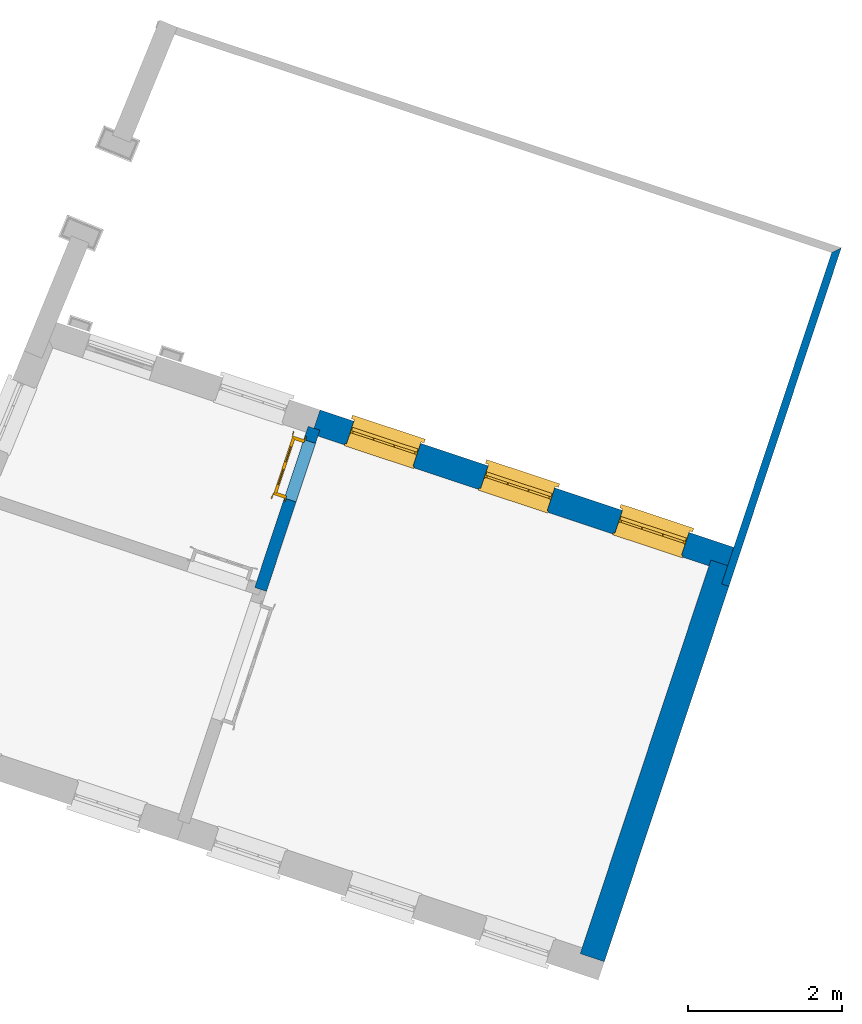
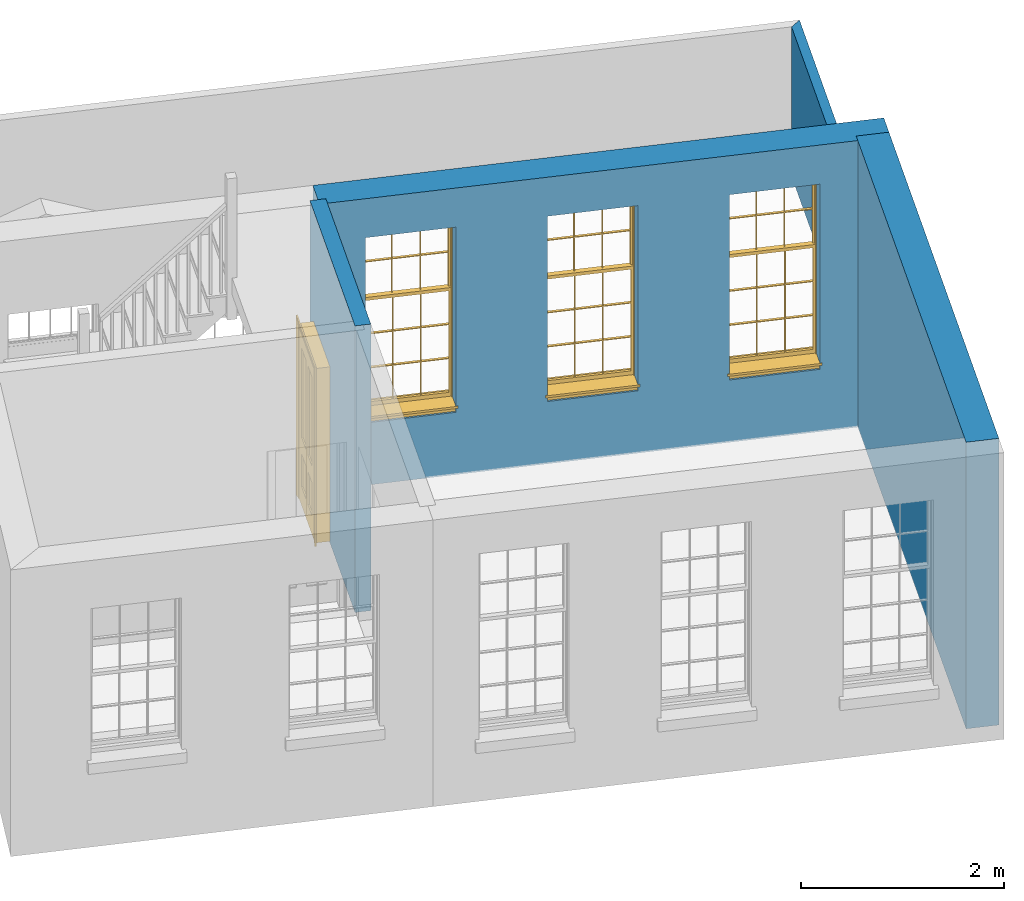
# One storey, part 5 of 6: 4 walls, 3 windows, 1 door, 4 openings.
"""IFC4 building model written with IfcOpenShell, lengths in metres."""

from ifc_helpers import new_model, si_unit, frame, origin, origin_with_axes, place, context, subcontext, project, spatial, polyline, outline, extrude, faceted_brep, source, transform, mapped, material, layer, layer_set, layer_usage, type_object, type_shapes, element, fill, save


model = new_model("IFC4")

# Units and contexts
model_context = context("Model", 3, world=origin_with_axes())
body_context = subcontext(model_context, "Body", "Model", "MODEL_VIEW")
ifc_project = project(units=[si_unit("PLANEANGLEUNIT", "RADIAN"), si_unit("MASSUNIT", "GRAM", prefix="KILO"), si_unit("FORCEUNIT", "NEWTON", prefix="KILO"), si_unit("LENGTHUNIT", "METRE"), si_unit("AREAUNIT", "SQUARE_METRE"), si_unit("VOLUMEUNIT", "CUBIC_METRE")], contexts=[model_context, model_context])

# Sites, building, storey
site_1_placement = place(None, origin_with_axes())
site_1 = spatial("IfcSite", under=ifc_project, at=site_1_placement, Name="Tamar")
site_2_placement = place(site_1_placement, origin_with_axes())
site_2 = spatial("IfcSite", under=site_1, at=site_2_placement, Name="Site plot-16", CompositionType="ELEMENT")
building_placement = place(None, origin_with_axes())
building = spatial("IfcBuilding", under=site_2, at=building_placement, Name="Building plot-16", CompositionType="ELEMENT")
storey_placement = place(None, frame((0.0, 0.0, 26.0), z_axis=(0.0, 0.0, 1.0), x_axis=(1.0, 0.0, 0.0)))
storey = spatial("IfcBuildingStorey", under=building, at=storey_placement, Name="plot-16 0", CompositionType="ELEMENT", Elevation=26.0)

# Wall, openings, windows
ifc_material_1 = material(Name="Masonry")
ifc_layer_1 = layer(ifc_material_1, 0.33, ventilated=False)
ifc_layer_set_1 = layer_set([ifc_layer_1], Name="exterior_0.08_0.25")
ifc_layer_usage_1 = layer_usage(ifc_layer_set_1, "AXIS2", "POSITIVE", -0.25)
wall_type_1 = type_object("IfcWallType", Name="exterior_0.08_0.25", PredefinedType="SOLIDWALL", material=ifc_layer_set_1)
wall_1_placement = place(storey_placement, frame((263.230074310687, 296.823615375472, 0.0), z_axis=(0.0, 0.0, 1.0), x_axis=(-0.949078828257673, 0.315038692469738, 0.0)))
wall_1 = element("IfcWall", 1, at=wall_1_placement, inside=storey, type_object=wall_type_1, material=ifc_layer_usage_1, Name="exterior", context=body_context, shape_type="SweptSolid", body=[
    extrude(outline(polyline([(-0.249999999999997, 0.0799999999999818), (-0.249999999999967, -0.249999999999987), (5.49899441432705, -0.249999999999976), (5.49899441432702, 0.0799999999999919), (-0.249999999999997, 0.0799999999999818)])), origin_with_axes(), (0.0, 0.0, 1.0), 3.45),
])
opening_1_placement = place(wall_1_placement, frame((0.461499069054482, 0.0, 0.75)))
opening_1 = element("IfcOpeningElement", 2, at=opening_1_placement, cuts=wall_1, Name="My Opening", ObjectType="Opening", context=body_context, shape_type="SweptSolid", body=[
    extrude(outline(polyline([(0.0, -0.270000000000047), (0.909999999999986, -0.270000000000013), (0.910000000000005, 1.10000000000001), (1.9151347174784e-14, 1.09999999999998), (0.0, -0.270000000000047)])), origin_with_axes(), (0.0, 0.0, 1.0), 2.23),
])
opening_2_placement = place(wall_1_placement, frame((2.2944972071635, 0.0, 0.75)))
opening_2 = element("IfcOpeningElement", 3, at=opening_2_placement, cuts=wall_1, Name="My Opening", ObjectType="Opening", context=body_context, shape_type="SweptSolid", body=[
    extrude(outline(polyline([(0.0, -0.270000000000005), (0.910000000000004, -0.270000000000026), (0.910000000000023, 1.1), (1.95399252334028e-14, 1.10000000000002), (0.0, -0.270000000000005)])), origin_with_axes(), (0.0, 0.0, 1.0), 2.23),
])
opening_3_placement = place(wall_1_placement, frame((4.12749534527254, 0.0, 0.75)))
opening_3 = element("IfcOpeningElement", 4, at=opening_3_placement, cuts=wall_1, Name="My Opening", ObjectType="Opening", context=body_context, shape_type="SweptSolid", body=[
    extrude(outline(polyline([(0.0, -0.270000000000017), (0.909999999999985, -0.269999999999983), (0.910000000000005, 1.10000000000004), (1.86517468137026e-14, 1.10000000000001), (0.0, -0.270000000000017)])), origin_with_axes(), (0.0, 0.0, 1.0), 2.23),
])
window_type = type_object("IfcWindowType", Name="sash_big_taller", PartitioningType="DOUBLE_PANEL_HORIZONTAL", PredefinedType="NOTDEFINED")
shared_shape_1 = source(origin(), body_context, "Body", "Brep", [
    faceted_brep([(0.033125, 0.145, 1.385209), (0.01, 0.145, 1.385209), (0.033125, 0.145, 1.786042), (0.876875, 0.145, 1.385209), (0.876875, 0.145, 1.786042), (0.9, 0.145, 1.385209), (0.876875, 0.145, 1.796042), (0.876875, 0.145, 2.196875), (0.9, 0.145, 2.22), (0.033125, 0.145, 2.196875), (0.033125, 0.145, 1.796042), (0.01, 0.145, 2.22), (0.876875, 0.115, 1.786042), (0.876875, 0.115, 1.385209), (0.9, 0.115, 1.347084), (0.033125, 0.115, 2.196875), (0.01, 0.115, 2.22), (0.033125, 0.115, 1.796042), (0.01, 0.115, 1.347084), (0.033125, 0.115, 1.385209), (0.033125, 0.115, 1.786042), (0.876875, 0.115, 2.196875), (0.876875, 0.115, 1.796042), (0.9, 0.115, 2.22), (0.033125, 0.145, 1.347084), (0.01, 0.145, 1.347084), (0.033125, 0.145, 0.94625), (0.876875, 0.145, 1.347084), (0.876875, 0.145, 0.94625), (0.9, 0.145, 1.347084), (0.876875, 0.145, 0.52625), (0.876875, 0.145, 0.125417), (0.9, 0.145, 0.077167), (0.033125, 0.145, 0.125417), (0.033125, 0.145, 0.52625), (0.01, 0.145, 0.077167), (-0.0425, 0.0, 0.01), (-0.0425, -0.05, 0.001667), (0.0, 0.0, 0.01), (0.9525, 0.0, 0.01), (0.91, 0.0, 0.01), (0.9525, -0.05, 0.001667), (-0.02, 0.33, 0.077167), (0.0, 0.33, 0.077167), (-0.02, 0.36, 0.077167), (0.0, 0.19, 0.077167), (0.01, 0.19, 0.077167), (0.91, 0.19, 0.077167), (0.91, 0.33, 0.077167), (0.9, 0.19, 0.077167), (0.93, 0.33, 0.077167), (0.93, 0.36, 0.077167), (0.01, 0.175, 1.385209), (0.9, 0.175, 1.385209), (0.876875, 0.175, 0.125417), (0.876875, 0.175, 0.52625), (0.9, 0.175, 0.077167), (0.876875, 0.175, 0.94625), (0.876875, 0.175, 1.347084), (0.033125, 0.175, 0.125417), (0.01, 0.175, 0.077167), (0.033125, 0.175, 0.52625), (0.033125, 0.175, 1.347084), (0.033125, 0.175, 0.94625), (-0.02, 0.33, 0.052167), (-0.02, 0.36, 0.052167), (0.93, 0.36, 0.052167), (0.93, 0.33, 0.052167), (0.91, 0.33, 0.052167), (0.0, 0.33, 0.052167), (0.91, 0.1, 0.026667), (0.0, 0.1, 0.026667), (-0.0425, -0.05, -0.123333), (0.9525, -0.05, -0.123333), (-0.0425, 0.0, -0.123333), (0.9525, 0.0, -0.123333), (0.01, 0.19, 2.22), (0.9, 0.19, 2.22), (0.0, 0.19, 2.23), (0.91, 0.19, 2.23), (0.01, 0.1, 0.077167), (0.9, 0.1, 0.077167), (0.592292, 0.145, 0.125417), (0.592292, 0.175, 0.125417), (0.317708, 0.175, 0.125417), (0.317708, 0.145, 0.125417), (0.592292, 0.145, 0.53625), (0.317708, 0.145, 0.53625), (0.317708, 0.145, 0.52625), (0.592292, 0.145, 0.52625), (0.592292, 0.175, 0.53625), (0.317708, 0.175, 0.53625), (0.592292, 0.115, 1.796042), (0.592292, 0.145, 1.796042), (0.317708, 0.145, 1.796042), (0.317708, 0.115, 1.796042), (0.317708, 0.115, 1.786042), (0.592292, 0.115, 1.786042), (0.317708, 0.145, 1.786042), (0.592292, 0.145, 1.786042), (0.602292, 0.115, 1.786042), (0.592292, 0.115, 1.385209), (0.602292, 0.115, 1.385209), (0.602292, 0.145, 1.385209), (0.592292, 0.145, 1.385209), (0.602292, 0.145, 1.786042), (0.876875, 0.145, 0.53625), (0.876875, 0.175, 0.53625), (0.602292, 0.175, 0.53625), (0.602292, 0.145, 0.53625), (0.317708, 0.175, 0.52625), (0.307708, 0.175, 0.125417), (0.307708, 0.175, 0.52625), (0.602292, 0.175, 0.52625), (0.602292, 0.175, 0.125417), (0.592292, 0.175, 0.52625), (0.307708, 0.175, 0.53625), (0.033125, 0.175, 0.53625), (0.317708, 0.175, 1.347084), (0.317708, 0.175, 0.94625), (0.307708, 0.175, 0.94625), (0.307708, 0.175, 1.347084), (0.602292, 0.175, 1.347084), (0.602292, 0.175, 0.94625), (0.592292, 0.175, 0.94625), (0.592292, 0.175, 1.347084), (0.307708, 0.145, 0.52625), (0.307708, 0.145, 0.125417), (0.307708, 0.145, 0.53625), (0.033125, 0.145, 0.53625), (0.307708, 0.145, 1.347084), (0.307708, 0.145, 0.94625), (0.592292, 0.145, 1.347084), (0.592292, 0.145, 0.94625), (0.317708, 0.145, 0.94625), (0.317708, 0.145, 1.347084), (0.602292, 0.145, 0.94625), (0.602292, 0.145, 1.347084), (0.602292, 0.145, 0.52625), (0.602292, 0.145, 0.125417), (0.307708, 0.115, 1.796042), (0.307708, 0.115, 1.786042), (0.307708, 0.115, 1.385209), (0.317708, 0.115, 1.385209), (0.317708, 0.115, 2.196875), (0.307708, 0.115, 2.196875), (0.602292, 0.115, 2.196875), (0.592292, 0.115, 2.196875), (0.602292, 0.115, 1.796042), (0.602292, 0.145, 1.796042), (0.307708, 0.145, 1.796042), (0.307708, 0.145, 2.196875), (0.317708, 0.145, 2.196875), (0.592292, 0.145, 2.196875), (0.602292, 0.145, 2.196875), (0.307708, 0.145, 1.786042), (0.317708, 0.145, 1.385209), (0.307708, 0.145, 1.385209), (0.876875, 0.175, 0.93625), (0.033125, 0.175, 0.93625), (0.033125, 0.145, 0.93625), (0.876875, 0.145, 0.93625), (0.91, 0.1, 2.23), (0.9, 0.1, 2.22), (0.01, 0.1, 2.22), (0.0, 0.1, 2.23), (0.91, 0.0, 0.0), (0.0, 0.0, 0.0), (0.91, 0.33, 0.0), (0.0, 0.33, 0.0), (0.317708, 0.145, 0.93625), (0.592292, 0.145, 0.93625), (0.317708, 0.175, 0.93625), (0.307708, 0.175, 0.93625), (0.602292, 0.175, 0.93625), (0.592292, 0.175, 0.93625), (0.307708, 0.145, 0.93625), (0.602292, 0.145, 0.93625)], [[[0, 1, 2]], [[3, 4, 5]], [[6, 7, 8]], [[9, 10, 11]], [[12, 13, 14]], [[15, 16, 17]], [[18, 19, 20]], [[21, 22, 23]], [[24, 25, 26]], [[27, 28, 29]], [[30, 31, 32]], [[33, 34, 35]], [[14, 27, 29]], [[25, 24, 18]], [[36, 37, 38]], [[39, 40, 41]], [[42, 43, 44]], [[45, 46, 43]], [[47, 48, 49]], [[50, 51, 48]], [[1, 0, 52]], [[5, 53, 3]], [[54, 55, 56]], [[57, 58, 53]], [[59, 60, 61]], [[62, 63, 52]], [[48, 43, 46, 49]], [[51, 44, 43, 48]], [[64, 42, 44, 65]], [[65, 44, 51, 66]], [[66, 51, 50, 67]], [[65, 66, 68, 69]], [[60, 56, 49, 46]], [[70, 71, 38, 40]], [[37, 41, 40, 38]], [[37, 72, 73, 41]], [[74, 75, 73, 72]], [[8, 11, 76, 77]], [[76, 78, 79, 77]], [[32, 35, 80, 81]], [[81, 80, 71, 70]], [[82, 83, 84, 85]], [[86, 87, 88, 89]], [[86, 90, 91, 87]], [[92, 93, 94, 95]], [[92, 95, 96, 97]], [[96, 98, 99, 97]], [[100, 97, 101, 102]], [[103, 104, 99, 105]], [[97, 99, 104, 101]], [[102, 103, 105, 100]], [[106, 107, 108, 109]], [[110, 84, 111, 112]], [[113, 114, 83, 115]], [[116, 112, 61, 117]], [[90, 115, 110, 91]], [[118, 119, 120, 121]], [[122, 123, 124, 125]], [[113, 108, 107, 55]], [[126, 112, 111, 127]], [[34, 61, 112, 126]], [[89, 115, 83, 82]], [[88, 110, 115, 89]], [[85, 84, 110, 88]], [[128, 116, 117, 129]], [[130, 121, 120, 131]], [[132, 125, 124, 133]], [[134, 119, 118, 135]], [[136, 123, 122, 137]], [[138, 113, 55, 30]], [[139, 114, 113, 138]], [[138, 30, 106, 109]], [[88, 126, 127, 85]], [[138, 89, 82, 139]], [[137, 132, 133, 136]], [[128, 129, 34, 126]], [[135, 130, 131, 134]], [[140, 17, 20, 141]], [[96, 141, 142, 143]], [[144, 145, 140, 95]], [[146, 147, 92, 148]], [[100, 12, 22, 148]], [[149, 6, 4, 105]], [[94, 150, 151, 152]], [[149, 93, 153, 154]], [[99, 98, 94, 93]], [[155, 2, 10, 150]], [[156, 157, 155, 98]], [[141, 155, 157, 142]], [[20, 2, 155, 141]], [[143, 156, 98, 96]], [[140, 150, 10, 17]], [[145, 151, 150, 140]], [[147, 153, 93, 92]], [[95, 94, 152, 144]], [[22, 6, 149, 148]], [[148, 149, 154, 146]], [[100, 105, 4, 12]], [[109, 86, 89, 138]], [[108, 113, 115, 90]], [[91, 110, 112, 116]], [[87, 128, 126, 88]], [[97, 100, 148, 92]], [[141, 96, 95, 140]], [[98, 155, 150, 94]], [[105, 99, 93, 149]], [[143, 101, 104, 156]], [[135, 118, 125, 132]], [[144, 152, 153, 147]], [[127, 111, 59, 33]], [[15, 9, 151, 145]], [[146, 154, 7, 21]], [[31, 54, 114, 139]], [[36, 74, 72, 37]], [[39, 41, 73, 75]], [[18, 14, 101, 143]], [[23, 16, 144, 147]], [[83, 56, 60, 84]], [[52, 53, 125, 118]], [[53, 52, 156, 104]], [[11, 8, 153, 152]], [[14, 18, 135, 132]], [[2, 1, 11, 10]], [[8, 5, 4, 6]], [[57, 53, 56, 158]], [[60, 52, 63, 159]], [[26, 25, 35, 160]], [[32, 29, 28, 161]], [[14, 23, 22, 12]], [[18, 20, 17, 16]], [[19, 0, 2, 20]], [[17, 10, 9, 15]], [[12, 4, 3, 13]], [[21, 7, 6, 22]], [[27, 58, 57, 28]], [[30, 55, 54, 31]], [[33, 59, 61, 34]], [[26, 63, 62, 24]], [[5, 8, 77, 53]], [[76, 11, 1, 52]], [[46, 45, 78, 76]], [[49, 77, 79, 47]], [[70, 162, 163, 81]], [[71, 80, 164, 165]], [[19, 142, 157, 0]], [[102, 13, 3, 103]], [[121, 130, 24, 62]], [[29, 32, 81, 14]], [[80, 35, 25, 18]], [[60, 46, 76, 52]], [[77, 49, 56, 53]], [[23, 14, 81, 163]], [[16, 164, 80, 18]], [[35, 85, 127]], [[127, 33, 35]], [[139, 82, 32]], [[32, 31, 139]], [[32, 82, 85, 35]], [[102, 101, 14]], [[14, 13, 102]], [[18, 143, 142]], [[142, 19, 18]], [[146, 21, 23]], [[23, 147, 146]], [[16, 15, 145]], [[145, 144, 16]], [[11, 152, 151]], [[151, 9, 11]], [[154, 153, 8]], [[8, 7, 154]], [[23, 163, 164, 16]], [[162, 165, 164, 163]], [[52, 118, 121]], [[121, 62, 52]], [[125, 53, 122]], [[58, 122, 53]], [[27, 137, 122, 58]], [[56, 83, 114]], [[114, 54, 56]], [[111, 84, 60]], [[60, 59, 111]], [[137, 27, 14]], [[14, 132, 137]], [[130, 135, 18]], [[18, 24, 130]], [[157, 156, 52]], [[52, 0, 157]], [[103, 3, 53]], [[53, 104, 103]], [[79, 78, 165, 162]], [[78, 45, 71, 165]], [[162, 70, 47, 79]], [[166, 75, 74, 167]], [[68, 66, 67]], [[48, 68, 67, 50]], [[69, 64, 65]], [[42, 64, 69, 43]], [[69, 68, 168, 169]], [[70, 68, 48, 47]], [[166, 168, 68, 70]], [[43, 69, 71, 45]], [[69, 169, 167, 71]], [[168, 166, 167, 169]], [[38, 167, 74, 36]], [[71, 167, 38]], [[39, 75, 166, 40]], [[40, 166, 70]], [[133, 134, 170, 171]], [[133, 124, 119, 134]], [[28, 57, 123, 136]], [[172, 91, 116, 173]], [[174, 108, 90, 175]], [[120, 173, 159, 63]], [[124, 175, 172, 119]], [[174, 123, 57, 158]], [[176, 173, 116, 128]], [[160, 159, 173, 176]], [[171, 175, 90, 86]], [[170, 172, 175, 171]], [[87, 91, 172, 170]], [[131, 120, 63, 26]], [[177, 174, 158, 161]], [[109, 108, 174, 177]], [[177, 161, 28, 136]], [[170, 176, 128, 87]], [[177, 171, 86, 109]], [[131, 26, 160, 176]], [[136, 133, 171, 177]], [[123, 174, 175, 124]], [[119, 172, 173, 120]], [[134, 131, 176, 170]], [[129, 117, 159, 160]], [[161, 158, 107, 106]], [[35, 34, 129]], [[35, 129, 160]], [[32, 106, 30]], [[32, 161, 106]], [[56, 55, 107]], [[56, 107, 158]], [[60, 117, 61]], [[60, 159, 117]]]),
])
type_shapes(window_type, [shared_shape_1])
window_1_placement = place(storey_placement, frame((262.877135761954, 297.225256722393, 0.75), z_axis=(0.0, 0.0, 1.0), x_axis=(-0.86366173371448, 0.286685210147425, 0.0)))
window_1 = element("IfcWindow", 5, at=window_1_placement, inside=storey, type_object=window_type, Name="living outside window", OverallHeight=2.23, OverallWidth=0.91, context=body_context, shape_type="MappedRepresentation", body=[
    mapped(shared_shape_1, transform((0.0, 0.0, 0.0), scale=1.0)),
])
fill(opening_1, window_1)
window_2_placement = place(storey_placement, frame((261.137476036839, 297.802722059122, 0.75), z_axis=(0.0, 0.0, 1.0), x_axis=(-0.86366173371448, 0.286685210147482, 0.0)))
window_2 = element("IfcWindow", 6, at=window_2_placement, inside=storey, type_object=window_type, Name="living outside window", OverallHeight=2.23, OverallWidth=0.91, context=body_context, shape_type="MappedRepresentation", body=[
    mapped(shared_shape_1, transform((0.0, 0.0, 0.0), scale=1.0)),
])
fill(opening_2, window_2)
window_3_placement = place(storey_placement, frame((259.397816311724, 298.380187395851, 0.75), z_axis=(0.0, 0.0, 1.0), x_axis=(-0.86366173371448, 0.286685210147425, 0.0)))
window_3 = element("IfcWindow", 7, at=window_3_placement, inside=storey, type_object=window_type, Name="living outside window", OverallHeight=2.23, OverallWidth=0.91, context=body_context, shape_type="MappedRepresentation", body=[
    mapped(shared_shape_1, transform((0.0, 0.0, 0.0), scale=1.0)),
])
fill(opening_3, window_3)

# Wall
ifc_material_2 = material(Name="Masonry")
ifc_layer_2 = layer(ifc_material_2, 0.33, ventilated=False)
ifc_layer_set_2 = layer_set([ifc_layer_2], Name="party_0.08_0.25")
ifc_layer_usage_2 = layer_usage(ifc_layer_set_2, "AXIS2", "POSITIVE", -0.25)
wall_type_2 = type_object("IfcWallType", Name="party_0.08_0.25", PredefinedType="SOLIDWALL", material=ifc_layer_set_2)
wall_2_placement = place(storey_placement, frame((261.536710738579, 291.722224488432, 0.0), z_axis=(0.0, 0.0, 1.0), x_axis=(0.315038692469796, 0.949078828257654, 0.0)))
element("IfcWall", 8, at=wall_2_placement, inside=storey, type_object=wall_type_2, material=ifc_layer_usage_2, Name="party", context=body_context, shape_type="SweptSolid", body=[
    extrude(outline(polyline([(-2.46509343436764e-14, 0.0799999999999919), (-2.85729347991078e-14, -0.249999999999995), (5.37509713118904, -0.249999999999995), (5.37509713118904, 0.0799999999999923), (-2.46509343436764e-14, 0.0799999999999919)])), origin_with_axes(), (0.0, 0.0, 1.0), 3.45),
])

# Wall, opening, door
ifc_material_3 = material(Name="Masonry")
ifc_layer_3 = layer(ifc_material_3, 0.16, ventilated=False)
ifc_layer_set_3 = layer_set([ifc_layer_3], Name="interior_0.08_0.08")
ifc_layer_usage_3 = layer_usage(ifc_layer_set_3, "AXIS2", "POSITIVE", -0.08)
wall_type_3 = type_object("IfcWallType", Name="interior_0.08_0.08", PredefinedType="SOLIDWALL", material=ifc_layer_set_3)
wall_3_placement = place(storey_placement, frame((257.317810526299, 296.467436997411, 0.0), z_axis=(0.0, 0.0, 1.0), x_axis=(0.315038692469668, 0.949078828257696, 0.0)))
wall_3 = element("IfcWall", 9, at=wall_3_placement, inside=storey, type_object=wall_type_3, material=ifc_layer_usage_3, Name="interior", context=body_context, shape_type="SweptSolid", body=[
    extrude(outline(polyline([(-1.3903975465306e-14, 0.0799999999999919), (1.39137726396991e-14, -0.0799999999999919), (2.20063320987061, -0.0799999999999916), (2.20063320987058, 0.0799999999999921), (-1.3903975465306e-14, 0.0799999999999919)])), origin_with_axes(), (0.0, 0.0, 1.0), 3.45),
])
opening_4_placement = place(wall_3_placement, frame((1.22063320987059, 0.0, 0.0199999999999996)))
opening_4 = element("IfcOpeningElement", 10, at=opening_4_placement, cuts=wall_3, Name="My Opening", ObjectType="Opening", context=body_context, shape_type="SweptSolid", body=[
    extrude(outline(polyline([(0.0, -0.100000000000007), (0.799999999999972, -0.10000000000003), (0.799999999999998, 1.10000000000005), (2.53130849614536e-14, 1.10000000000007), (0.0, -0.100000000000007)])), origin_with_axes(), (0.0, 0.0, 1.0), 2.1),
])
door_type = type_object("IfcDoorType", Name="door_inside", OperationType="SINGLE_SWING_LEFT", PredefinedType="NOTDEFINED")
shared_shape_2 = source(origin(), body_context, "Body", "Brep", [
    faceted_brep([(0.773, 0.33, 1.895), (0.66, 0.33, 1.895), (0.66, 0.33, 2.073), (0.773, 0.33, 2.073), (0.773, 0.33, 0.82), (0.66, 0.33, 0.82), (0.45, 0.33, 1.895), (0.45, 0.33, 2.073), (0.773, 0.33, 0.62), (0.66, 0.33, 0.62), (0.66, 0.315, 0.82), (0.66, 0.315, 1.895), (0.45, 0.315, 1.895), (0.35, 0.33, 1.895), (0.35, 0.33, 2.073), (0.773, 0.33, 0.225), (0.66, 0.33, 0.225), (0.45, 0.33, 0.62), (0.45, 0.33, 0.82), (0.45, 0.315, 0.82), (0.35, 0.33, 0.82), (0.14, 0.33, 2.073), (0.14, 0.33, 1.895), (0.773, 0.33, 0.0), (0.66, 0.33, 0.0), (0.66, 0.315, 0.225), (0.66, 0.315, 0.62), (0.45, 0.315, 0.62), (0.35, 0.33, 0.62), (0.35, 0.315, 0.82), (0.35, 0.315, 1.895), (0.14, 0.315, 1.895), (0.027, 0.33, 2.073), (0.027, 0.33, 1.895), (0.773, 0.292, 0.0), (0.66, 0.292, 0.0), (0.45, 0.33, 0.0), (0.45, 0.33, 0.225), (0.45, 0.315, 0.225), (0.35, 0.33, 0.225), (0.14, 0.33, 0.82), (0.14, 0.33, 0.62), (0.14, 0.315, 0.82), (0.027, 0.33, 0.82), (0.773, 0.292, 0.225), (0.66, 0.292, 0.225), (0.45, 0.292, 0.0), (0.35, 0.33, 0.0), (0.35, 0.315, 0.225), (0.35, 0.315, 0.62), (0.14, 0.315, 0.62), (0.027, 0.33, 0.62), (0.773, 0.292, 0.62), (0.66, 0.292, 0.62), (0.45, 0.292, 0.225), (0.35, 0.292, 0.0), (0.14, 0.33, 0.225), (0.14, 0.33, 0.0), (0.14, 0.315, 0.225), (0.027, 0.33, 0.225), (0.773, 0.292, 0.82), (0.66, 0.292, 0.82), (0.66, 0.307, 0.62), (0.66, 0.307, 0.225), (0.45, 0.307, 0.225), (0.35, 0.292, 0.225), (0.14, 0.292, 0.0), (0.027, 0.33, 0.0), (0.773, 0.292, 1.895), (0.66, 0.292, 1.895), (0.45, 0.292, 0.62), (0.45, 0.292, 0.82), (0.45, 0.307, 0.62), (0.35, 0.292, 0.62), (0.14, 0.292, 0.225), (0.027, 0.292, 0.0), (0.773, 0.292, 2.073), (0.66, 0.292, 2.073), (0.66, 0.307, 1.895), (0.66, 0.307, 0.82), (0.45, 0.307, 0.82), (0.35, 0.292, 0.82), (0.35, 0.307, 0.62), (0.35, 0.307, 0.225), (0.14, 0.307, 0.225), (0.027, 0.292, 0.225), (0.45, 0.292, 1.895), (0.45, 0.292, 2.073), (0.45, 0.307, 1.895), (0.35, 0.292, 1.895), (0.14, 0.292, 0.82), (0.14, 0.292, 0.62), (0.14, 0.307, 0.62), (0.027, 0.292, 0.62), (0.35, 0.292, 2.073), (0.35, 0.307, 1.895), (0.35, 0.307, 0.82), (0.14, 0.307, 0.82), (0.027, 0.292, 0.82), (0.14, 0.292, 2.073), (0.14, 0.292, 1.895), (0.14, 0.307, 1.895), (0.027, 0.292, 1.895), (0.027, 0.292, 2.073), (0.02, 0.335, 0.0), (0.005, 0.34, 0.0), (0.005, 0.34, 2.095), (0.02, 0.335, 2.08), (0.02, 0.33, 0.0), (0.0, 0.335, 0.0), (0.0, 0.335, 2.1), (0.795, 0.34, 2.095), (0.78, 0.335, 2.08), (0.02, 0.33, 2.08), (0.0, 0.33, 0.0), (-0.032, 0.345, 0.0), (-0.032, 0.345, 2.132), (0.8, 0.335, 2.1), (0.795, 0.34, 0.0), (0.78, 0.335, 0.0), (0.78, 0.33, 2.08), (0.04, 0.29, 0.0), (0.025, 0.29, 0.0), (0.025, 0.29, 2.075), (0.04, 0.29, 2.06), (-0.04, 0.34, 0.0), (-0.04, 0.34, 2.14), (0.832, 0.345, 2.132), (0.8, 0.335, 0.0), (0.78, 0.33, 0.0), (0.8, 0.33, 0.0), (0.86, 0.33, 0.0), (0.86, 0.33, 2.16), (0.8, 0.33, 2.1), (-0.06, 0.33, 2.16), (0.0, 0.33, 2.1), (-0.06, 0.33, 0.0), (-0.04, 0.345, 0.0), (-0.04, 0.345, 2.14), (0.84, 0.34, 2.14), (0.832, 0.345, 0.0), (0.84, 0.34, 0.0), (0.86, 0.345, 0.0), (0.86, 0.345, 2.16), (-0.06, 0.345, 2.16), (-0.06, 0.345, 0.0), (0.84, 0.345, 0.0), (0.84, 0.345, 2.14), (-0.025, 0.155, 0.0), (-0.025, 0.16, 0.0), (-0.025, 0.16, 2.125), (-0.025, 0.155, 2.125), (-0.017, 0.155, 0.0), (-0.017, 0.155, 2.117), (0.825, 0.16, 2.125), (0.825, 0.155, 2.125), (0.825, 0.155, 0.0), (0.845, 0.155, 0.0), (-0.045, 0.155, 2.145), (-0.045, 0.155, 0.0), (0.845, 0.155, 2.145), (0.015, 0.165, 0.0), (0.015, 0.165, 2.085), (0.817, 0.155, 2.117), (0.825, 0.16, 0.0), (0.845, 0.17, 0.0), (0.845, 0.17, 2.145), (-0.045, 0.17, 2.145), (-0.045, 0.17, 0.0), (0.02, 0.16, 0.0), (0.02, 0.16, 2.08), (0.785, 0.165, 2.085), (0.817, 0.155, 0.0), (0.8, 0.17, 0.0), (0.8, 0.17, 2.1), (0.0, 0.17, 2.1), (0.0, 0.17, 0.0), (0.035, 0.165, 0.0), (0.035, 0.165, 2.065), (0.78, 0.16, 2.08), (0.785, 0.165, 0.0), (0.775, 0.29, 2.075), (0.76, 0.29, 2.06), (0.035, 0.17, 2.065), (0.035, 0.17, 0.0), (0.765, 0.165, 2.065), (0.78, 0.16, 0.0), (0.765, 0.17, 0.0), (0.765, 0.17, 2.065), (0.765, 0.165, 0.0), (0.04, 0.17, 2.06), (0.04, 0.17, 0.0), (0.76, 0.17, 2.06), (0.76, 0.17, 0.0), (0.76, 0.29, 0.0), (0.775, 0.29, 0.0), (0.025, 0.33, 0.0), (0.025, 0.33, 2.075), (0.775, 0.33, 0.0), (0.775, 0.33, 2.075)], [[[0, 1, 2, 3]], [[1, 0, 4, 5]], [[1, 6, 7, 2]], [[8, 9, 5, 4]], [[1, 5, 10, 11]], [[6, 1, 11, 12]], [[6, 13, 14, 7]], [[15, 16, 9, 8]], [[9, 17, 18, 5]], [[5, 18, 19, 10]], [[10, 19, 12, 11]], [[18, 6, 12, 19]], [[18, 20, 13, 6]], [[21, 14, 13, 22]], [[23, 24, 16, 15]], [[9, 16, 25, 26]], [[17, 9, 26, 27]], [[17, 28, 20, 18]], [[13, 20, 29, 30]], [[22, 13, 30, 31]], [[32, 21, 22, 33]], [[34, 35, 24, 23]], [[24, 36, 37, 16]], [[16, 37, 38, 25]], [[25, 38, 27, 26]], [[37, 17, 27, 38]], [[37, 39, 28, 17]], [[40, 20, 28, 41]], [[20, 40, 42, 29]], [[31, 30, 29, 42]], [[40, 22, 31, 42]], [[33, 22, 40, 43]], [[35, 34, 44, 45]], [[35, 46, 36, 24]], [[36, 47, 39, 37]], [[28, 39, 48, 49]], [[41, 28, 49, 50]], [[43, 40, 41, 51]], [[45, 44, 52, 53]], [[46, 35, 45, 54]], [[46, 55, 47, 36]], [[56, 39, 47, 57]], [[39, 56, 58, 48]], [[50, 49, 48, 58]], [[56, 41, 50, 58]], [[51, 41, 56, 59]], [[53, 52, 60, 61]], [[45, 53, 62, 63]], [[54, 45, 63, 64]], [[55, 46, 54, 65]], [[55, 66, 57, 47]], [[59, 56, 57, 67]], [[61, 60, 68, 69]], [[70, 53, 61, 71]], [[53, 70, 72, 62]], [[72, 64, 63, 62]], [[70, 54, 64, 72]], [[65, 54, 70, 73]], [[65, 74, 66, 55]], [[67, 57, 66, 75]], [[69, 68, 76, 77]], [[61, 69, 78, 79]], [[71, 61, 79, 80]], [[73, 70, 71, 81]], [[65, 73, 82, 83]], [[74, 65, 83, 84]], [[74, 85, 75, 66]], [[86, 69, 77, 87]], [[69, 86, 88, 78]], [[88, 80, 79, 78]], [[86, 71, 80, 88]], [[81, 71, 86, 89]], [[73, 81, 90, 91]], [[73, 91, 92, 82]], [[83, 82, 92, 84]], [[91, 74, 84, 92]], [[91, 93, 85, 74]], [[89, 86, 87, 94]], [[81, 89, 95, 96]], [[90, 81, 96, 97]], [[90, 98, 93, 91]], [[94, 99, 100, 89]], [[89, 100, 101, 95]], [[101, 97, 96, 95]], [[100, 90, 97, 101]], [[100, 102, 98, 90]], [[99, 103, 102, 100]], [[32, 103, 99, 21]], [[102, 103, 32, 33]], [[98, 102, 33, 43]], [[21, 99, 94, 14]], [[94, 87, 7, 14]], [[7, 87, 77, 2]], [[76, 3, 2, 77]], [[43, 51, 93, 98]], [[51, 59, 85, 93]], [[67, 75, 85, 59]], [[34, 23, 15, 44]], [[44, 15, 8, 52]], [[52, 8, 4, 60]], [[0, 68, 60, 4]], [[0, 3, 76, 68]], [[104, 105, 106, 107]], [[104, 108, 109, 105]], [[105, 109, 110, 106]], [[107, 106, 111, 112]], [[107, 113, 108, 104]], [[114, 109, 108]], [[109, 115, 116, 110]], [[106, 110, 117, 111]], [[112, 111, 118, 119]], [[113, 107, 112, 120]], [[121, 122, 123, 124]], [[115, 109, 114, 125]], [[115, 125, 126, 116]], [[110, 116, 127, 117]], [[111, 117, 128, 118]], [[118, 128, 129, 119]], [[120, 112, 119, 129]], [[130, 129, 128]], [[130, 131, 132, 133]], [[133, 132, 134, 135]], [[135, 134, 136, 114]], [[136, 125, 114]], [[125, 137, 138, 126]], [[116, 126, 139, 127]], [[117, 127, 140, 128]], [[141, 130, 128, 140]], [[131, 130, 141]], [[131, 142, 143, 132]], [[132, 143, 144, 134]], [[134, 144, 145, 136]], [[137, 125, 136, 145]], [[143, 142, 146]], [[143, 146, 147]], [[137, 145, 144]], [[143, 147, 138]], [[138, 137, 144]], [[143, 138, 144]], [[126, 138, 147, 139]], [[127, 139, 141, 140]], [[142, 131, 141, 146]], [[139, 147, 146, 141]], [[148, 149, 150, 151]], [[149, 152, 153, 150]], [[151, 150, 154, 155]], [[155, 156, 157]], [[158, 159, 148]], [[158, 148, 151]], [[155, 157, 160]], [[158, 151, 155]], [[155, 160, 158]], [[152, 161, 162, 153]], [[150, 153, 163, 154]], [[155, 154, 164, 156]], [[156, 164, 165, 157]], [[157, 165, 166, 160]], [[160, 166, 167, 158]], [[158, 167, 168, 159]], [[161, 169, 170, 162]], [[153, 162, 171, 163]], [[154, 163, 172, 164]], [[165, 164, 173]], [[165, 173, 174, 166]], [[166, 174, 175, 167]], [[167, 175, 176, 168]], [[169, 177, 178, 170]], [[162, 170, 179, 171]], [[163, 171, 180, 172]], [[172, 180, 173, 164]], [[124, 123, 181, 182]], [[183, 178, 177, 184]], [[170, 178, 185, 179]], [[171, 179, 186, 180]], [[187, 173, 180]], [[185, 188, 187, 189]], [[188, 185, 178, 183]], [[179, 185, 189, 186]], [[189, 187, 180, 186]], [[190, 183, 184, 191]], [[192, 188, 183, 190]], [[191, 184, 122, 121]], [[124, 190, 191, 121]], [[193, 187, 188, 192]], [[182, 192, 190, 124]], [[184, 176, 122]], [[194, 195, 187, 193]], [[192, 182, 194, 193]], [[161, 176, 184]], [[114, 108, 122, 176]], [[173, 187, 195]], [[152, 149, 176, 161]], [[169, 161, 184, 177]], [[196, 122, 108]], [[176, 175, 135, 114]], [[173, 195, 129, 130]], [[176, 149, 168]], [[123, 122, 196, 197]], [[196, 108, 113, 197]], [[175, 174, 133, 135]], [[198, 129, 195]], [[133, 174, 173, 130]], [[159, 168, 149, 148]], [[181, 123, 197, 199]], [[197, 113, 120, 199]], [[199, 120, 129, 198]], [[195, 181, 199, 198]], [[195, 194, 182, 181]]]),
])
type_shapes(door_type, [shared_shape_2])
door_placement = place(storey_placement, frame((257.797265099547, 297.59441026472, 0.0199999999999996), z_axis=(0.0, 0.0, 1.0), x_axis=(0.252030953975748, 0.759263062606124, 0.0)))
door = element("IfcDoor", 11, at=door_placement, inside=storey, type_object=door_type, Name="living inside door", OverallHeight=2.1, OverallWidth=0.8, context=body_context, shape_type="MappedRepresentation", body=[
    mapped(shared_shape_2, transform((0.0, 0.0, 0.0), scale=1.0)),
])
fill(opening_4, door)

# Wall
ifc_material_4 = material(Name="Masonry")
ifc_layer_4 = layer(ifc_material_4, 0.1, ventilated=False)
ifc_layer_set_4 = layer_set([ifc_layer_4], Name="fence_-0.15_0.25")
ifc_layer_usage_4 = layer_usage(ifc_layer_set_4, "AXIS2", "POSITIVE", -0.25)
wall_type_4 = type_object("IfcWallType", Name="fence_-0.15_0.25", PredefinedType="SOLIDWALL", material=ifc_layer_set_4)
wall_4_placement = place(storey_placement, frame((263.230074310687, 296.823615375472, 0.0), z_axis=(0.0, 0.0, 1.0), x_axis=(0.315038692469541, 0.949078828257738, 0.0)))
element("IfcWall", 12, at=wall_4_placement, inside=storey, type_object=wall_type_4, material=ifc_layer_usage_4, Name="fence", context=body_context, shape_type="SweptSolid", body=[
    extrude(outline(polyline([(-0.250000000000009, -0.150000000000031), (-0.249999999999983, -0.250000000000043), (4.37490286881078, -0.250000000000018), (4.27490286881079, -0.150000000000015), (-0.250000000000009, -0.150000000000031)])), origin_with_axes(), (0.0, 0.0, 1.0), 1.8),
])

save(model, "model.ifc")
